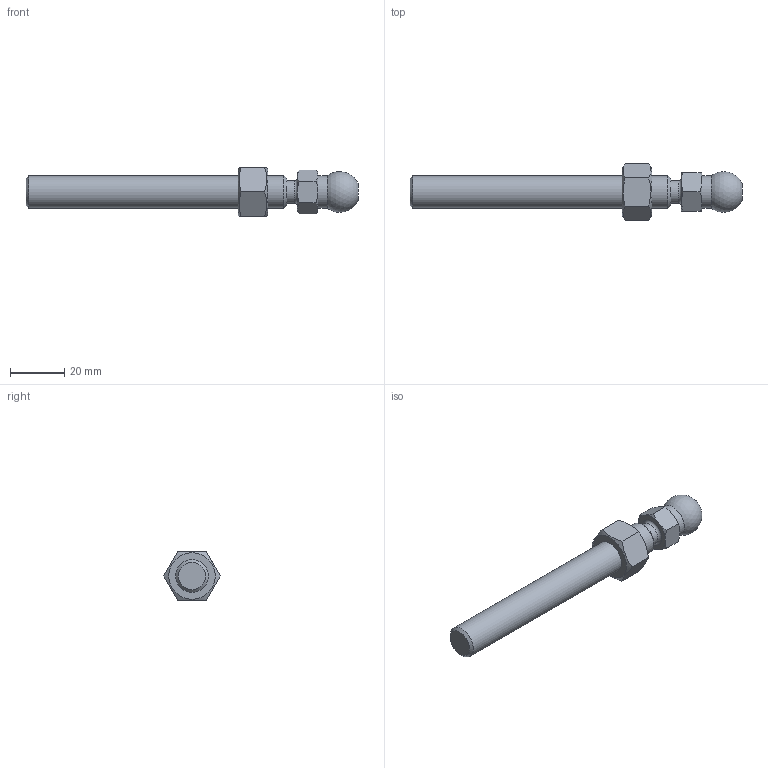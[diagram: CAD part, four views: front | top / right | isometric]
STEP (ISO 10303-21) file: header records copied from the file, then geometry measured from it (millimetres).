
FILE_DESCRIPTION(('STEP AP203'), '1');
FILE_NAME('A00020.112100', '', ('UNSPECIFIED'), ('UNSPECIFIED'), 'C3D Converter', 'C3D Toolkit', '');
FILE_SCHEMA(('CONFIG_CONTROL_DESIGN'));
Length unit declared in the file: millimetre
Products named in the file (2): A00020.112100
Assembly tree (1 placements, depth 2):
  A00020.112100
    (unnamed)
Bounding box: 122.3 x 20.78 x 18 mm (x, y, z)
Volume: 16299.4 mm3; surface area: 6395.4 mm2
Topology: 2 solids, 2 shells, 43 faces, 88 edges, 52 vertices
Faces by surface type: plane 19, cone 18, cylinder 4, torus 1, sphere 1
Full cylindrical faces by diameter (mm): 8.3 x1, 10.647 x1, 12 x2
Entity records: 2211 total; most frequent: CARTESIAN_POINT 1309, DIRECTION 158, ORIENTED_EDGE 152, EDGE_CURVE 76, AXIS2_PLACEMENT_3D 73, EDGE_LOOP 60, VERTEX_POINT 52, ADVANCED_FACE 43
